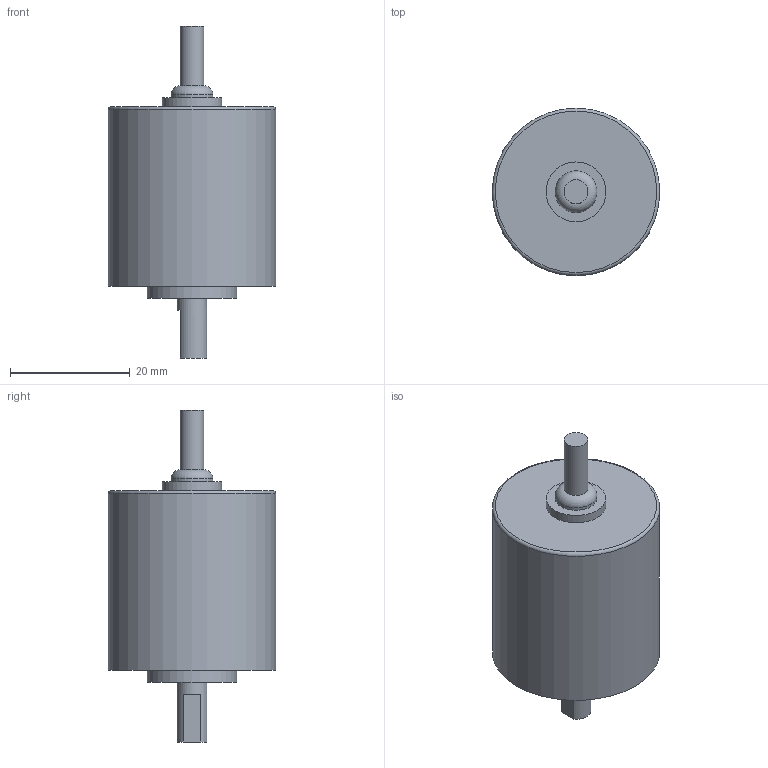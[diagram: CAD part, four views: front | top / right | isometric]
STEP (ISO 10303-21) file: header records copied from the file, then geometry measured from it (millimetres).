
FILE_DESCRIPTION(('OEZ-2MC'),'2;1');
FILE_NAME('C:\Users\user\Documents\Inventor\配布用外径データ\配布用STEP\OEZ-2MC.stp','2019-05-09T09:34:17',('NEMICON Corp.'),('NEMICON Corp.'),'Autodesk Inventor 2011','Autodesk Inventor 2011','');
FILE_SCHEMA(('AUTOMOTIVE_DESIGN { 1 0 10303 214 1 1 1 1 }'));
Length unit declared in the file: millimetre
Products named in the file (1): OEZ-2MC
Bounding box: 28 x 28 x 55.5 mm (x, y, z)
Volume: 19270.5 mm3; surface area: 4381.5 mm2
Topology: 1 solids, 1 shells, 20 faces, 37 edges, 23 vertices
Faces by surface type: cylinder 8, plane 8, torus 2, cone 2
Full cylindrical faces by diameter (mm): 2.459 x2, 4 x1, 5 x1, 7 x1, 10 x1, 15 x1, 28 x1
Entity records: 446 total; most frequent: DIRECTION 82, CARTESIAN_POINT 63, ORIENTED_EDGE 44, AXIS2_PLACEMENT_3D 39, EDGE_LOOP 36, EDGE_CURVE 22, VERTEX_POINT 20, FACE_OUTER_BOUND 20
